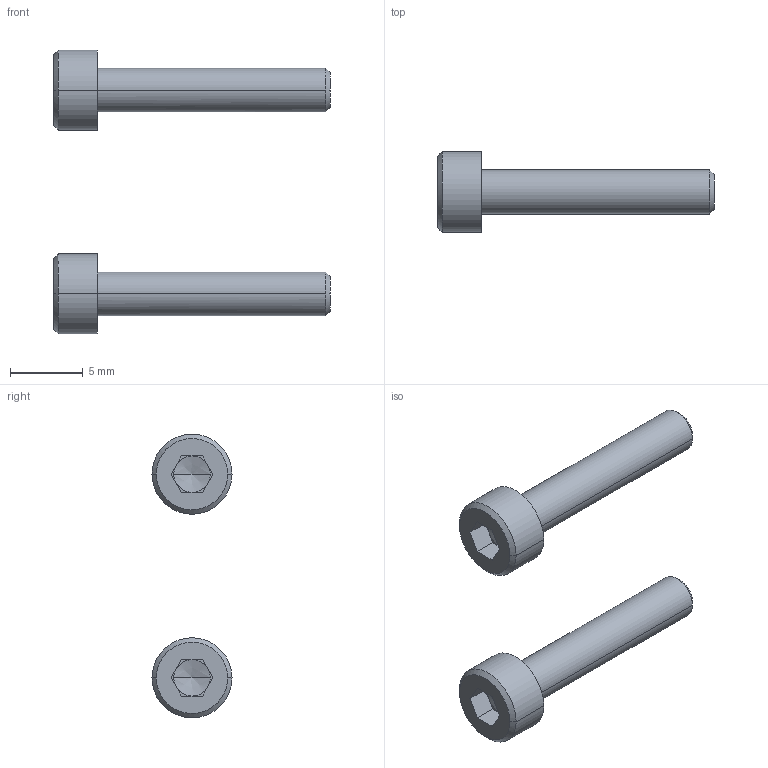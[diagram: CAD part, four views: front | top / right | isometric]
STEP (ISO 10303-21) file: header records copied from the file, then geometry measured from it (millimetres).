
FILE_DESCRIPTION(/* description */ (''),/* implementation_level */ '2;1');
FILE_NAME(/* name */ '6.y-drive#6.6#CB3-16',/* time_stamp */ '2014-12-01T20:15:06+01:00',/* author */ (''),/* organization */ (''),/* preprocessor_version */ 'ST-DEVELOPER v14',/* originating_system */ '',/* authorisation */ '');
FILE_SCHEMA (('AUTOMOTIVE_DESIGN'));
Length unit declared in the file: millimetre
Products named in the file (2): Document; screw DIN912-like, M3x16
Assembly tree (2 placements, depth 2):
  Document
    screw DIN912-like, M3x16  x2
Bounding box: 19 x 5.5 x 19.49 mm (x, y, z)
Volume: 349.5 mm3; surface area: 517.1 mm2
Topology: 2 solids, 2 shells, 50 faces, 112 edges, 66 vertices
Faces by surface type: plane 30, bspline 20
Entity records: 1413 total; most frequent: CARTESIAN_POINT 633, B_SPLINE_CURVE_WITH_KNOTS 126, ORIENTED_EDGE 108, PCURVE 108, DEFINITIONAL_REPRESENTATION 108, SURFACE_CURVE 54, EDGE_CURVE 54, VERTEX_POINT 33
